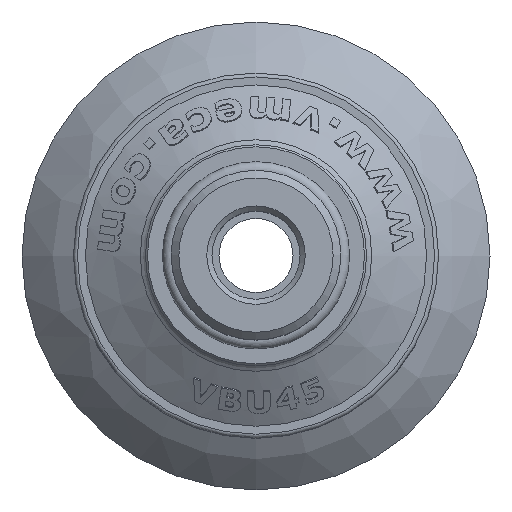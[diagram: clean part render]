
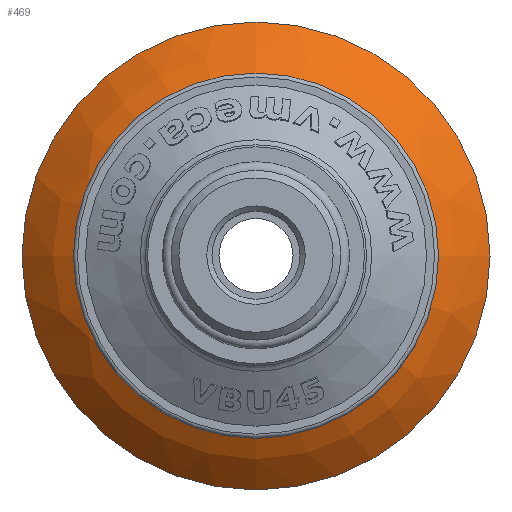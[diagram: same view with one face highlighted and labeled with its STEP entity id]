
A CAD part, top view. The second image highlights one B-rep face of the part: STEP entity #469.
In plain terms, the highlighted free-form (B-spline) face has degree [3, 3] with [4, 7] control points.
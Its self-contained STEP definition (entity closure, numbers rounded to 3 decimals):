
#469 = ADVANCED_FACE( '', ( #1241, #1242 ), #1243, .T. );
#1241 = FACE_OUTER_BOUND( '', #3239, .T. );
#1242 = FACE_OUTER_BOUND( '', #3240, .T. );
#1243 = ( BOUNDED_SURFACE(  )B_SPLINE_SURFACE( 3, 3, ( ( #3243, #3244, #3245, #3246, #3247, #3248, #3249 ), ( #3250, #3251, #3252, #3253, #3254, #3255, #3256 ), ( #3257, #3258, #3259, #3260, #3261, #3262, #3263 ), ( #3264, #3265, #3266, #3267, #3268, #3269, #3270 ) ), .UNSPECIFIED., .F., .T., .F. )B_SPLINE_SURFACE_WITH_KNOTS( ( 4, 4 ), ( 4, 3, 4 ), ( 0., 6.283 ), ( 0.717, 1.004, 1.291 ), .UNSPECIFIED. )GEOMETRIC_REPRESENTATION_ITEM(  )RATIONAL_B_SPLINE_SURFACE( ( ( 1., 0.333, 0.333, 1., 0.333, 0.333, 1. ), ( 0.973, 0.324, 0.324, 0.973, 0.324, 0.324, 0.973 ), ( 0.973, 0.324, 0.324, 0.973, 0.324, 0.324, 0.973 ), ( 1., 0.333, 0.333, 1., 0.333, 0.333, 1. ) ) )REPRESENTATION_ITEM( '' )SURFACE(  ) );
#3239 = EDGE_LOOP( '', ( #11947 ) );
#3240 = EDGE_LOOP( '', ( #11948 ) );
#3243 = CARTESIAN_POINT( '', ( 12.452, 0., -9.198 ) );
#3244 = CARTESIAN_POINT( '', ( 12.452, 24.904, -9.198 ) );
#3245 = CARTESIAN_POINT( '', ( -12.452, 24.904, -9.198 ) );
#3246 = CARTESIAN_POINT( '', ( -12.452, 0., -9.198 ) );
#3247 = CARTESIAN_POINT( '', ( -12.452, -24.904, -9.198 ) );
#3248 = CARTESIAN_POINT( '', ( 12.452, -24.904, -9.198 ) );
#3249 = CARTESIAN_POINT( '', ( 12.452, 0., -9.198 ) );
#3250 = CARTESIAN_POINT( '', ( 16.472, 0., -10.353 ) );
#3251 = CARTESIAN_POINT( '', ( 16.472, 32.943, -10.353 ) );
#3252 = CARTESIAN_POINT( '', ( -16.472, 32.943, -10.353 ) );
#3253 = CARTESIAN_POINT( '', ( -16.472, 0., -10.353 ) );
#3254 = CARTESIAN_POINT( '', ( -16.472, -32.943, -10.353 ) );
#3255 = CARTESIAN_POINT( '', ( 16.472, -32.943, -10.353 ) );
#3256 = CARTESIAN_POINT( '', ( 16.472, 0., -10.353 ) );
#3257 = CARTESIAN_POINT( '', ( 20., 0., -12.598 ) );
#3258 = CARTESIAN_POINT( '', ( 20., 40.001, -12.598 ) );
#3259 = CARTESIAN_POINT( '', ( -20., 40.001, -12.598 ) );
#3260 = CARTESIAN_POINT( '', ( -20., 0., -12.598 ) );
#3261 = CARTESIAN_POINT( '', ( -20., -40.001, -12.598 ) );
#3262 = CARTESIAN_POINT( '', ( 20., -40.001, -12.598 ) );
#3263 = CARTESIAN_POINT( '', ( 20., 0., -12.598 ) );
#3264 = CARTESIAN_POINT( '', ( 22.75, 0., -15.749 ) );
#3265 = CARTESIAN_POINT( '', ( 22.75, 45.5, -15.749 ) );
#3266 = CARTESIAN_POINT( '', ( -22.75, 45.5, -15.749 ) );
#3267 = CARTESIAN_POINT( '', ( -22.75, 0., -15.749 ) );
#3268 = CARTESIAN_POINT( '', ( -22.75, -45.5, -15.749 ) );
#3269 = CARTESIAN_POINT( '', ( 22.75, -45.5, -15.749 ) );
#3270 = CARTESIAN_POINT( '', ( 22.75, 0., -15.749 ) );
#11947 = ORIENTED_EDGE( '', *, *, #14306, .T. );
#11948 = ORIENTED_EDGE( '', *, *, #14307, .F. );
#14306 = EDGE_CURVE( '', #15662, #15662, #15663, .T. );
#14307 = EDGE_CURVE( '', #15664, #15664, #15665, .T. );
#15662 = VERTEX_POINT( '', #18426 );
#15663 = CIRCLE( '', #18427, 22.75 );
#15664 = VERTEX_POINT( '', #18428 );
#15665 = CIRCLE( '', #18429, 12.452 );
#18426 = CARTESIAN_POINT( '', ( 22.75, 0., -15.749 ) );
#18427 = AXIS2_PLACEMENT_3D( '', #24171, #24172, #24173 );
#18428 = CARTESIAN_POINT( '', ( 12.452, 0., -9.198 ) );
#18429 = AXIS2_PLACEMENT_3D( '', #24174, #24175, #24176 );
#24171 = CARTESIAN_POINT( '', ( 0., 0., -15.749 ) );
#24172 = DIRECTION( '', ( 0., 0., 1. ) );
#24173 = DIRECTION( '', ( 1., 0., 0. ) );
#24174 = CARTESIAN_POINT( '', ( 0., 0., -9.198 ) );
#24175 = DIRECTION( '', ( 0., 0., 1. ) );
#24176 = DIRECTION( '', ( 1., 0., 0. ) );
